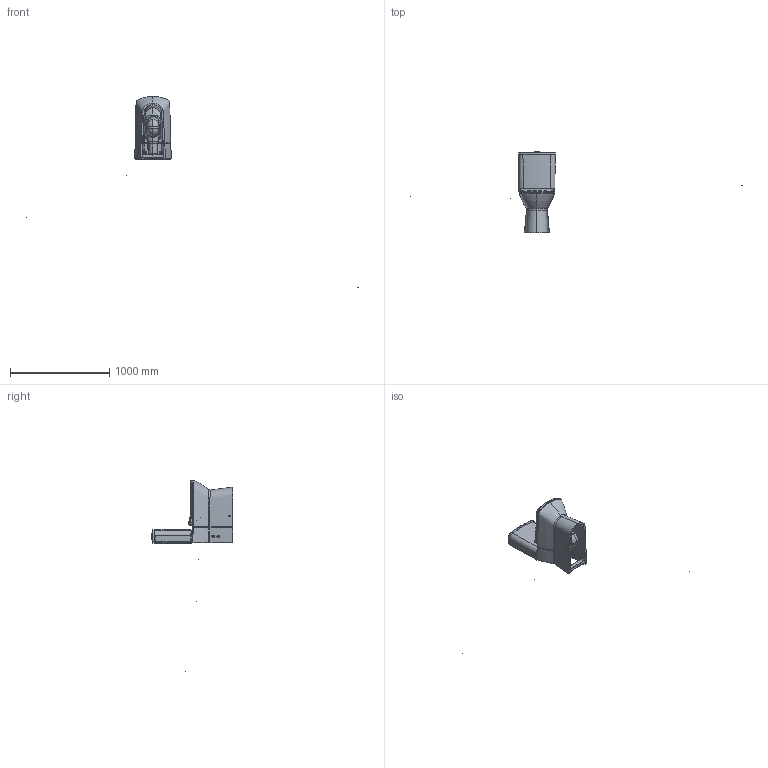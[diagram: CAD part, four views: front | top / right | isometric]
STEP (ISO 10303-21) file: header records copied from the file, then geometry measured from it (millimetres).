
FILE_DESCRIPTION (( 'STEP AP203' ), '1' );
FILE_NAME ('NV361+NV410+KC1603.01.0000.STEP', '2022-04-14T13:09:53', ( '' ), ( '' ), 'SwSTEP 2.0', 'SolidWorks 2021', '' );
FILE_SCHEMA (( 'CONFIG_CONTROL_DESIGN' ));
Products named in the file (1): NV361+NV410+KC1603.01.0000
Bounding box: 3342.89 x 820.18 x 1924.04 mm (x, y, z)
Volume: 23592511.3 mm3; surface area: 3124115.9 mm2
Topology: 65 solids, 65 shells, 2533 faces, 6326 edges, 3916 vertices
Faces by surface type: bspline 1152, cylinder 780, plane 310, torus 146, cone 77, sphere 68
Entity records: 839651 total; most frequent: CARTESIAN_POINT 790408, ORIENTED_EDGE 12450, DIRECTION 6851, EDGE_CURVE 6225, VERTEX_POINT 3904, B_SPLINE_CURVE_WITH_KNOTS 3256, AXIS2_PLACEMENT_3D 2801, EDGE_LOOP 2645
